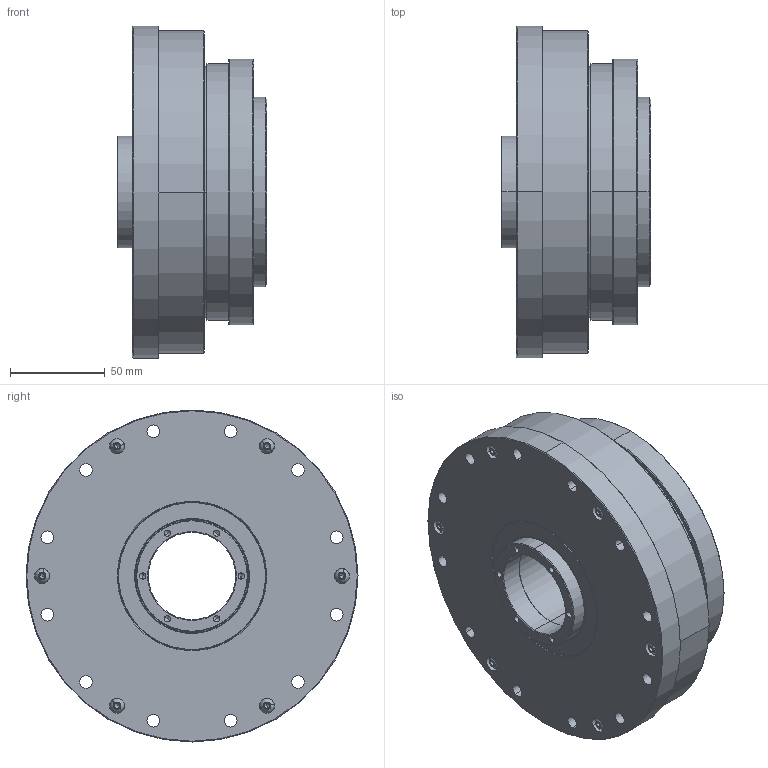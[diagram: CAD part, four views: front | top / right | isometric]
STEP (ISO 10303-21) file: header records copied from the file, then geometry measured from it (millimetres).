
FILE_DESCRIPTION (( 'STEP AP203' ), '1' );
FILE_NAME ('FHG-40-XXX-AH.STEP', '2019-06-21T02:25:09', ( '' ), ( '' ), 'SwSTEP 2.0', 'SolidWorks 2016', '' );
FILE_SCHEMA (( 'CONFIG_CONTROL_DESIGN' ));
Length unit declared in the file: millimetre
Products named in the file (1): FHG-40-XXX-AH
Bounding box: 79 x 175 x 175 mm (x, y, z)
Volume: 822518.3 mm3; surface area: 307850.7 mm2
Topology: 20 solids, 20 shells, 883 faces, 2004 edges, 1192 vertices
Faces by surface type: cylinder 396, cone 258, plane 173, torus 44, sphere 12
Entity records: 24903 total; most frequent: DIRECTION 4706, CARTESIAN_POINT 4382, ORIENTED_EDGE 3856, AXIS2_PLACEMENT_3D 1984, EDGE_CURVE 1928, VERTEX_POINT 1192, EDGE_LOOP 1152, CIRCLE 1100
